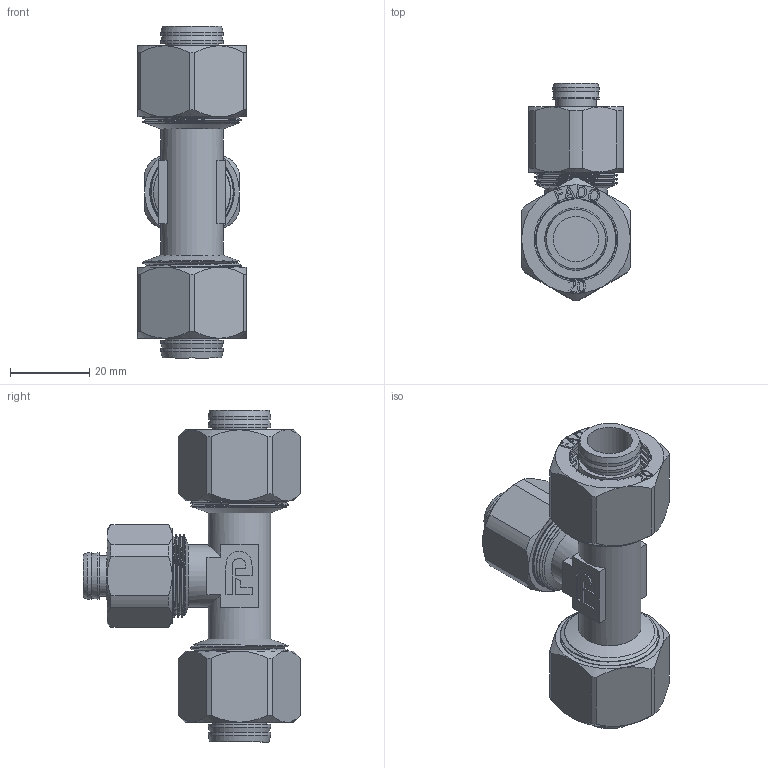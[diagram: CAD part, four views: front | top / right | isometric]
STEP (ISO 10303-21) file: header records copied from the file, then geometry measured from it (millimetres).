
FILE_DESCRIPTION(/* description */ (''),/* implementation_level */ '2;1');
FILE_NAME(/* name */ 'C:\Users\Doom\Desktop\Фадотех\Обжим\RFT04 20x16x20 30.03.2020\RFT04 20x16x20 30.03.2020.stp',/* time_stamp */ '2022-06-01T10:28:03+03:00',/* author */ ('Doom'),/* organization */ (''),/* preprocessor_version */ 'ST-DEVELOPER v18',/* originating_system */ 'Autodesk Inventor 2020',/* authorisation */ '');
FILE_SCHEMA (('AUTOMOTIVE_DESIGN { 1 0 10303 214 3 1 1 }'));
Length unit declared in the file: millimetre
Products named in the file (8): RFT04 20x16x20 30.03.2020; RFM29 32x1.2M 30.03.2020; FADO MC Nut-20 15.02.2020; FADO MC Socket-20 15.02.2020; Olive 20 15.02.2020; FADO MC Nut-16 15.02.2020; FADO MC Socket-16 15.02.2020; Olive 16 15.02.2020
Assembly tree (10 placements, depth 2):
  RFT04 20x16x20 30.03.2020
    RFM29 32x1.2M 30.03.2020
    FADO MC Nut-20 15.02.2020  x2
    FADO MC Socket-20 15.02.2020  x2
    Olive 20 15.02.2020  x2
    FADO MC Nut-16 15.02.2020
    FADO MC Socket-16 15.02.2020
    Olive 16 15.02.2020
Bounding box: 27.5 x 55 x 84 mm (x, y, z)
Volume: 30755.5 mm3; surface area: 45101.4 mm2
Topology: 16 solids, 16 shells, 1512 faces, 4138 edges, 2776 vertices
Faces by surface type: bspline 758, plane 441, cylinder 231, cone 78, torus 4
Full cylindrical faces by diameter (mm): 8.5 x1, 10.2 x2, 11.5 x2, 11.7 x4, 12 x2, 12.6 x1, 13.531 x4, 14.5 x2, 14.7 x2, 15.5 x1, 15.8 x2, 15.802 x10, 16.5 x1, 17.391 x2, 17.5 x2, 18 x2, 19 x1, 19.5 x1, 19.517 x2, 19.867 x12, 20.5 x2, 21 x10, 21.35 x2, 22.776 x18, 23 x2, 23.517 x2, 24.1 x2, 25 x20
Entity records: 65724 total; most frequent: CARTESIAN_POINT 41954, ORIENTED_EDGE 5780, DIRECTION 3322, EDGE_CURVE 2890, VERTEX_POINT 1940, EDGE_LOOP 1164, B_SPLINE_CURVE_WITH_KNOTS 1162, LINE 1150
